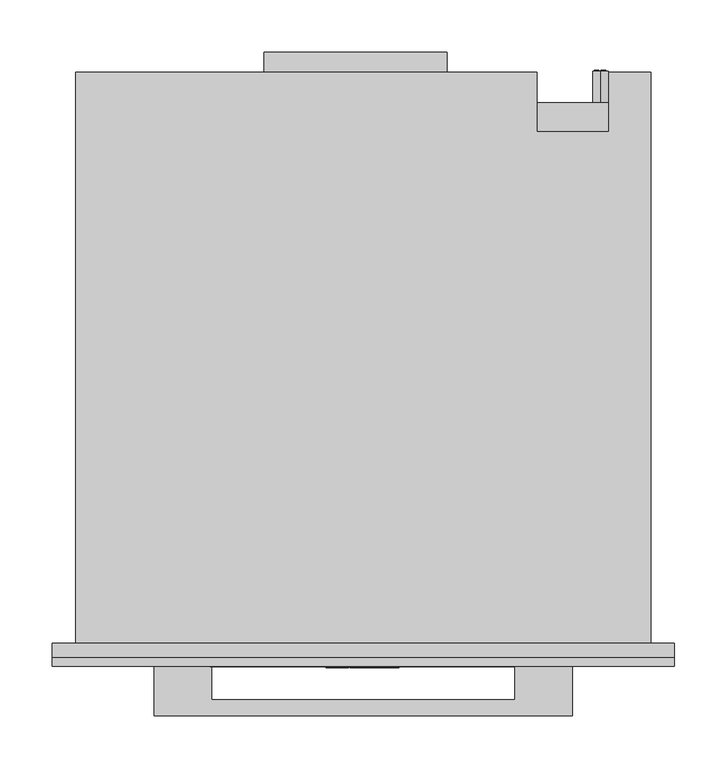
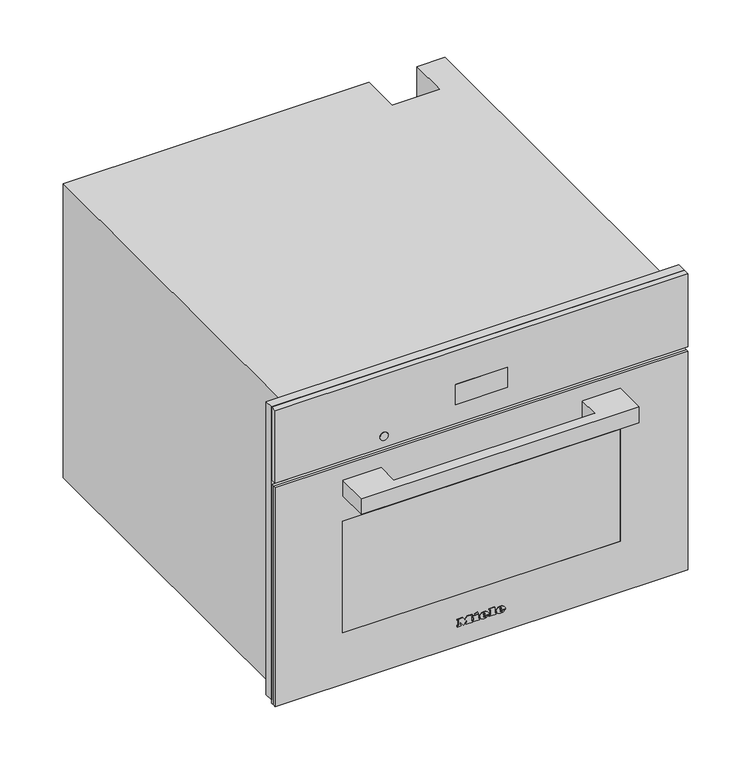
"""IFC4 building model written with IfcOpenShell, lengths in millimetres: proxy geometry, 12940270_USA_DGC7440_OBSW : 23744022_USA_12940270_DGC7440_OBSW."""

from ifc_helpers import new_model, si_unit, point, frame, frame_2d, origin, place, context, project, spatial, polyline, circle_curve, ellipse_curve, trimmed, segment, composite_curve, outline, extrude, faceted_brep, source, transform, mapped, element, save
from ifc_brep_helpers import plane_surface, cylinder_surface, revolved_surface, extruded_surface, advanced_brep


def specialty_equipment_715cd1da(model_context):
    return source(origin(), model_context, "Body", "SolidModel", [
        extrude(outline(polyline([(455.0, 297.5), (455.0, -297.5), (9.0, -297.5), (9.0, 297.5), (455.0, 297.5)]), holes=[polyline([(344.0, -272.5), (344.0, 272.5), (27.0, 272.5), (27.0, -272.5), (344.0, -272.5)])]), frame((0.0, -13.0, 0.0), z_axis=(0.0, 1.0, 0.0), x_axis=(0.0, 0.0, 1.0)), (0.0, 0.0, 1.0), 13.0),
        extrude(outline(polyline([(-95.0, 565.0), (80.0, 565.0), (80.0, 546.0), (-95.0, 546.0), (-95.0, 565.0)])), frame((0.0, 0.0, 260.0), z_axis=(0.0, 0.0, 1.0), x_axis=(1.0, 0.0, 0.0)), (0.0, 0.0, 1.0), 1.0),
        advanced_brep(
        [(227.0, 547.0, 255.5), (227.0, 547.0, 240.5), (221.4098301, 547.0, 243.0), (225.5, 547.0, 243.0), (225.5, 547.0, 253.0), (224.4955303, 547.0, 253.0), (224.4955303, 547.0, 244.0), (221.0315043, 547.0, 244.0), (221.0315043, 547.0, 243.4582978), (232.0, 547.0, 243.0), (232.0, 547.0, 253.0), (227.0, 547.0, 253.0), (227.0, 547.0, 252.0), (231.0, 547.0, 252.0), (231.0, 547.0, 248.5), (228.0, 547.0, 248.5), (228.0, 547.0, 247.5), (231.0, 547.0, 247.5), (231.0, 547.0, 244.0), (227.0, 547.0, 244.0), (227.0, 547.0, 243.0), (227.0, 517.0, 240.5), (227.0, 517.0, 255.5), (232.0, 548.0, 253.0), (232.0, 548.0, 243.0), (227.0, 548.0, 243.0), (227.0, 548.0, 244.0), (231.0, 548.0, 244.0), (231.0, 548.0, 247.5), (228.0, 548.0, 247.5), (228.0, 548.0, 248.5), (231.0, 548.0, 248.5), (231.0, 548.0, 252.0), (227.0, 548.0, 252.0), (227.0, 548.0, 253.0), (225.5, 548.0, 243.0), (221.0315043, 548.0, 243.0), (221.0315043, 548.0, 244.0), (224.4955303, 548.0, 244.0), (224.4955303, 548.0, 253.0), (225.5, 548.0, 253.0), (221.0315043, 547.0, 243.0)],
        [
            (0, 1, circle_curve(frame((227.0, 547.0, 248.0), z_axis=(0.0, 1.0, 0.0), x_axis=(0.0, 0.0, 1.0)), 7.5)),
            (1, 2, circle_curve(frame((227.0, 547.0, 248.0), z_axis=(0.0, 1.0, 0.0), x_axis=(0.0, 0.0, 1.0)), 7.5)),
            (2, 3),
            (3, 4),
            (4, 5),
            (5, 6),
            (6, 7),
            (7, 8),
            (8, 0, circle_curve(frame((227.0, 547.0, 248.0), z_axis=(0.0, 1.0, 0.0), x_axis=(0.0, 0.0, 1.0)), 7.5)),
            (9, 10),
            (10, 11),
            (11, 12),
            (12, 13),
            (13, 14),
            (14, 15),
            (15, 16),
            (16, 17),
            (17, 18),
            (18, 19),
            (19, 20),
            (20, 9),
            (21, 22, circle_curve(frame((227.0, 517.0, 248.0), z_axis=(0.0, -1.0, 0.0), x_axis=(0.0, 0.0, 1.0)), 7.5)),
            (22, 21, circle_curve(frame((227.0, 517.0, 248.0), z_axis=(0.0, -1.0, 0.0), x_axis=(0.0, 0.0, 1.0)), 7.5)),
            (0, 22),
            (21, 1),
            (8, 2, circle_curve(frame((227.0, 547.0, 248.0), z_axis=(0.0, -1.0, 0.0), x_axis=(0.0, 0.0, 1.0)), 7.5)),
            (23, 24),
            (24, 25),
            (25, 26),
            (26, 27),
            (27, 28),
            (28, 29),
            (29, 30),
            (30, 31),
            (31, 32),
            (32, 33),
            (33, 34),
            (34, 23),
            (35, 36),
            (36, 37),
            (37, 38),
            (38, 39),
            (39, 40),
            (40, 35),
            (8, 41),
            (41, 2),
            (23, 10),
            (9, 24),
            (20, 25),
            (19, 26),
            (18, 27),
            (17, 28),
            (16, 29),
            (15, 30),
            (14, 31),
            (13, 32),
            (12, 33),
            (11, 34),
            (35, 3),
            (41, 36),
            (7, 37),
            (6, 38),
            (5, 39),
            (4, 40),
        ],
        [
            plane_surface(frame((227.0, 547.0, 255.5), z_axis=(0.0, 1.0, 0.0), x_axis=(1.0, 0.0, 0.0))),
            plane_surface(frame((227.0, 517.0, 255.5), z_axis=(0.0, -1.0, 0.0), x_axis=(-1.0, 0.0, 0.0))),
            cylinder_surface(frame((227.0, 547.0, 248.0), z_axis=(0.0, -1.0, 0.0), x_axis=(0.0, 0.0, 1.0)), 7.5),
            plane_surface(frame((232.0, 548.0, 253.0), z_axis=(0.0, 1.0, 0.0), x_axis=(0.0, 0.0, -1.0))),
            plane_surface(frame((232.0, 547.0, 253.0), z_axis=(0.0, -1.0, 0.0), x_axis=(0.0, 0.0, 1.0))),
            plane_surface(frame((232.0, 548.0, 253.0), z_axis=(1.0, 0.0, 0.0), x_axis=(0.0, -1.0, 0.0))),
            plane_surface(frame((232.0, 548.0, 243.0), z_axis=(0.0, 0.0, -1.0), x_axis=(0.0, -1.0, 0.0))),
            plane_surface(frame((227.0, 548.0, 243.0), z_axis=(-1.0, 0.0, 0.0), x_axis=(0.0, -1.0, 0.0))),
            plane_surface(frame((227.0, 548.0, 244.0), z_axis=(0.0, 0.0, 1.0), x_axis=(0.0, -1.0, 0.0))),
            plane_surface(frame((231.0, 548.0, 244.0), z_axis=(-1.0, 0.0, 0.0), x_axis=(0.0, -1.0, 0.0))),
            plane_surface(frame((231.0, 548.0, 247.5), z_axis=(0.0, 0.0, -1.0), x_axis=(0.0, -1.0, 0.0))),
            plane_surface(frame((228.0, 548.0, 247.5), z_axis=(-1.0, 0.0, 0.0), x_axis=(0.0, -1.0, 0.0))),
            plane_surface(frame((228.0, 548.0, 248.5), z_axis=(0.0, 0.0, 1.0), x_axis=(0.0, -1.0, 0.0))),
            plane_surface(frame((231.0, 548.0, 248.5), z_axis=(-1.0, 0.0, 0.0), x_axis=(0.0, -1.0, 0.0))),
            plane_surface(frame((231.0, 548.0, 252.0), z_axis=(0.0, 0.0, -1.0), x_axis=(0.0, -1.0, 0.0))),
            plane_surface(frame((227.0, 548.0, 252.0), z_axis=(-1.0, 0.0, 0.0), x_axis=(0.0, -1.0, 0.0))),
            plane_surface(frame((227.0, 548.0, 253.0), z_axis=(0.0, 0.0, 1.0), x_axis=(0.0, -1.0, 0.0))),
            plane_surface(frame((225.5, 548.0, 243.0), z_axis=(0.0, 0.0, -1.0), x_axis=(0.0, -1.0, 0.0))),
            plane_surface(frame((221.0315043, 548.0, 243.0), z_axis=(-1.0, 0.0, 0.0), x_axis=(0.0, -1.0, 0.0))),
            plane_surface(frame((221.0315043, 548.0, 244.0), z_axis=(0.0, 0.0, 1.0), x_axis=(0.0, -1.0, 0.0))),
            plane_surface(frame((224.4955303, 548.0, 244.0), z_axis=(-1.0, 0.0, 0.0), x_axis=(0.0, -1.0, 0.0))),
            plane_surface(frame((224.4955303, 548.0, 253.0), z_axis=(0.0, 0.0, 1.0), x_axis=(0.0, -1.0, 0.0))),
            plane_surface(frame((225.5, 548.0, 253.0), z_axis=(1.0, 0.0, 0.0), x_axis=(0.0, -1.0, 0.0))),
        ],
        [
            (0, [[1, 2, 3, 4, 5, 6, 7, 8, 9], [10, 11, 12, 13, 14, 15, 16, 17, 18, 19, 20, 21]]),
            (1, [[22, 23]]),
            (2, [[-1, 24, -22, 25]]),
            (2, [[-23, -24, -9, 26, -2, -25]]),
            (3, [[27, 28, 29, 30, 31, 32, 33, 34, 35, 36, 37, 38]]),
            (3, [[39, 40, 41, 42, 43, 44]]),
            (4, [[45, 46, -26]]),
            (5, [[-27, 47, -10, 48]]),
            (6, [[-28, -48, -21, 49]]),
            (7, [[-29, -49, -20, 50]]),
            (8, [[-30, -50, -19, 51]]),
            (9, [[-31, -51, -18, 52]]),
            (10, [[-32, -52, -17, 53]]),
            (11, [[-33, -53, -16, 54]]),
            (12, [[-34, -54, -15, 55]]),
            (13, [[-35, -55, -14, 56]]),
            (14, [[-36, -56, -13, 57]]),
            (15, [[-37, -57, -12, 58]]),
            (16, [[-38, -58, -11, -47]]),
            (17, [[-39, 59, -3, -46, 60]]),
            (18, [[-40, -60, -45, -8, 61]]),
            (19, [[-41, -61, -7, 62]]),
            (20, [[-42, -62, -6, 63]]),
            (21, [[-43, -63, -5, 64]]),
            (22, [[-44, -64, -4, -59]]),
        ],
    ),
        faceted_brep([(-275.0, 546.0, 0.0), (-275.0, 546.0, 448.0), (166.0, 546.0, 448.0), (166.0, 546.0, 0.0), (235.0, 546.0, 448.0), (275.0, 546.0, 448.0), (275.0, 546.0, 338.0), (235.0, 546.0, 338.0), (275.0, 0.0, 448.0), (-275.0, 0.0, 448.0), (-275.0, 0.0, 0.0), (275.0, 0.0, 0.0), (-272.5, 0.0, 344.0), (272.5, 0.0, 344.0), (272.5, 0.0, 27.0), (-272.5, 0.0, 27.0), (235.0, 489.0, 448.0), (166.0, 489.0, 448.0), (166.0, 517.0, 0.0), (275.0, 517.0, 0.0), (275.0, 517.0, 338.0), (272.5, 17.0, 344.0), (-272.5, 17.0, 344.0), (-272.5, 17.0, 27.0), (272.5, 17.0, 27.0), (231.0, 17.0, 307.0), (231.0, 17.0, 65.0), (-231.0, 17.0, 65.0), (-231.0, 17.0, 307.0), (231.0, 411.0, 307.0), (-231.0, 411.0, 307.0), (-231.0, 411.0, 65.0), (231.0, 411.0, 65.0), (235.0, 489.0, 337.0), (166.0, 489.0, 337.0), (166.0, 517.0, 337.0), (235.0, 517.0, 337.0), (235.0, 517.0, 338.0)], [[[0, 1, 2, 3]], [[4, 5, 6, 7]], [[8, 9, 10, 11], [12, 13, 14, 15]], [[9, 8, 5, 4, 16, 17, 2, 1]], [[1, 0, 10, 9]], [[11, 10, 0, 3, 18, 19]], [[8, 11, 19, 20, 6, 5]], [[21, 22, 23, 24], [25, 26, 27, 28]], [[22, 21, 13, 12]], [[23, 22, 12, 15]], [[24, 23, 15, 14]], [[21, 24, 14, 13]], [[29, 30, 31, 32]], [[29, 32, 26, 25]], [[32, 31, 27, 26]], [[31, 30, 28, 27]], [[30, 29, 25, 28]], [[16, 33, 34, 17]], [[17, 34, 35, 18, 3, 2]], [[34, 33, 36, 35]], [[33, 16, 4, 7, 37, 36]], [[37, 20, 19, 18, 35, 36]], [[20, 37, 7, 6]]]),
        advanced_brep(
        [(26.2998, -23.0, 36.7018), (26.2998, -23.0, 37.8532), (33.9264, -23.0, 37.8532), (20.6568, -23.0, 37.8532), (23.7918, -23.0, 34.0), (33.7326, -23.0, 36.7018), (30.2898, -23.0, 36.7018), (27.5766, -23.0, 35.425), (26.2998, -23.0, 39.3124), (26.2998, -23.0, 40.555), (28.2492, -23.0, 40.555), (28.2492, -23.0, 39.3124), (26.2998, -22.0, 36.7018), (27.5766, -22.0, 35.425), (30.2898, -22.0, 36.7018), (33.7326, -22.0, 36.7018), (23.7918, -22.0, 34.0), (20.6568, -22.0, 37.8532), (33.9264, -22.0, 37.8532), (26.2998, -22.0, 37.8532), (26.2998, -22.0, 39.3124), (28.2492, -22.0, 39.3124), (28.2492, -22.0, 40.555), (26.2998, -22.0, 40.555)],
        [
            (0, 1),
            (1, 2),
            (2, 3, ellipse_curve(frame((27.2916, -23.0, 37.8532), z_axis=(0.0, -1.0, 0.0), x_axis=(-1.0, 0.0, 0.0)), 6.6348, 5.4834)),
            (3, 4, circle_curve(frame((25.0686622, -23.0, 38.2408), z_axis=(0.0, -1.0, 0.0), x_axis=(0.0, 0.0, -1.0)), 4.4288556)),
            (4, 5, circle_curve(frame((27.1587808, -23.0, 41.2504), z_axis=(0.0, -1.0, 0.0), x_axis=(0.0, 0.0, -1.0)), 7.9940516)),
            (5, 6),
            (6, 7, circle_curve(frame((28.1338588, -23.0, 37.762), z_axis=(0.0, 1.0, 0.0), x_axis=(0.0, 0.0, -1.0)), 2.4025208)),
            (7, 0, circle_curve(frame((27.5766, -23.0, 36.7018), z_axis=(0.0, 1.0, 0.0), x_axis=(0.0, 0.0, -1.0)), 1.2768)),
            (8, 9),
            (9, 10, circle_curve(frame((27.2745, -23.0, 40.555), z_axis=(0.0, 1.0, 0.0), x_axis=(0.0, 0.0, -1.0)), 0.9747)),
            (10, 11),
            (11, 8),
            (12, 13, circle_curve(frame((27.5766, -22.0, 36.7018), z_axis=(0.0, -1.0, 0.0), x_axis=(0.0, 0.0, -1.0)), 1.2768)),
            (13, 14, circle_curve(frame((28.1338588, -22.0, 37.762), z_axis=(0.0, -1.0, 0.0), x_axis=(0.0, 0.0, -1.0)), 2.4025208)),
            (14, 15),
            (15, 16, circle_curve(frame((27.1587808, -22.0, 41.2504), z_axis=(0.0, 1.0, 0.0), x_axis=(0.0, 0.0, -1.0)), 7.9940516)),
            (16, 17, circle_curve(frame((25.0686622, -22.0, 38.2408), z_axis=(0.0, 1.0, 0.0), x_axis=(0.0, 0.0, -1.0)), 4.4288556)),
            (17, 18, ellipse_curve(frame((27.2916, -22.0, 37.8532), z_axis=(0.0, 1.0, 0.0), x_axis=(-1.0, 0.0, 0.0)), 6.6348, 5.4834)),
            (18, 19),
            (19, 12),
            (20, 21),
            (21, 22),
            (22, 23, circle_curve(frame((27.2745, -22.0, 40.555), z_axis=(0.0, -1.0, 0.0), x_axis=(0.0, 0.0, -1.0)), 0.9747)),
            (23, 20),
            (0, 12),
            (19, 1),
            (18, 2),
            (5, 15),
            (14, 6),
            (17, 3),
            (13, 7),
            (16, 4),
            (8, 20),
            (23, 9),
            (22, 10),
            (21, 11),
        ],
        [
            plane_surface(frame((26.2998, -23.0, 37.8532), z_axis=(0.0, -1.0, 0.0), x_axis=(0.0, 0.0, 1.0))),
            plane_surface(frame((26.2998, -22.0, 37.8532), z_axis=(0.0, 1.0, 0.0), x_axis=(0.0, 0.0, -1.0))),
            plane_surface(frame((26.2998, -23.0, 36.7018), z_axis=(1.0, 0.0, 0.0), x_axis=(0.0, 1.0, 0.0))),
            plane_surface(frame((26.2998, -23.0, 37.8532), z_axis=(0.0, 0.0, -1.0), x_axis=(0.0, 1.0, 0.0))),
            plane_surface(frame((33.7326, -23.0, 36.7018), z_axis=(0.0, 0.0, 1.0), x_axis=(0.0, 1.0, 0.0))),
            extruded_surface(trimmed(ellipse_curve(frame((27.2916, -21.0, 37.8532), z_axis=(0.0, -1.0, 0.0), x_axis=(-1.0, 0.0, 0.0)), 6.6348, 5.4834), [point((33.9264, -21.0, 37.8532))], [point((20.6568, -21.0, 37.8532))], True, "CARTESIAN"), (0.0, -1.0, 0.0), 1.0),
            revolved_surface(polyline([(28.1338588, -22.0, 35.3594792), (28.1338588, -23.0, 35.3594792)]), (28.1338588, -22.0, 37.762), (0.0, 1.0, 0.0)),
            revolved_surface(polyline([(27.5766, -22.0, 35.425), (27.5766, -23.0, 35.425)]), (27.5766, -22.0, 36.7018), (0.0, 1.0, 0.0)),
            cylinder_surface(frame((25.0686622, -22.0, 38.2408), z_axis=(0.0, -1.0, 0.0), x_axis=(0.0, 0.0, -1.0)), 4.4288556),
            cylinder_surface(frame((27.1587808, -22.0, 41.2504), z_axis=(0.0, -1.0, 0.0), x_axis=(0.0, 0.0, -1.0)), 7.9940516),
            plane_surface(frame((26.2998, -23.0, 39.3124), z_axis=(1.0, 0.0, 0.0), x_axis=(0.0, 1.0, 0.0))),
            revolved_surface(polyline([(27.2745, -22.0, 39.5803), (27.2745, -23.0, 39.5803)]), (27.2745, -22.0, 40.555), (0.0, 1.0, 0.0)),
            plane_surface(frame((28.2492, -23.0, 40.555), z_axis=(-1.0, 0.0, 0.0), x_axis=(0.0, 1.0, 0.0))),
            plane_surface(frame((28.2492, -23.0, 39.3124), z_axis=(0.0, 0.0, 1.0), x_axis=(0.0, 1.0, 0.0))),
        ],
        [
            (0, [[1, 2, 3, 4, 5, 6, 7, 8], [9, 10, 11, 12]]),
            (1, [[13, 14, 15, 16, 17, 18, 19, 20], [21, 22, 23, 24]]),
            (2, [[-1, 25, -20, 26]]),
            (3, [[-2, -26, -19, 27]]),
            (4, [[-6, 28, -15, 29]]),
            (5, [[-3, -27, -18, 30]]),
            (6, [[-7, -29, -14, 31]]),
            (7, [[-8, -31, -13, -25]]),
            (8, [[-4, -30, -17, 32]]),
            (9, [[-5, -32, -16, -28]]),
            (10, [[-9, 33, -24, 34]]),
            (11, [[-10, -34, -23, 35]]),
            (12, [[-11, -35, -22, 36]]),
            (13, [[-12, -36, -21, -33]]),
        ],
    ),
        advanced_brep(
        [(2.508, -23.0, 36.7018), (2.508, -23.0, 37.8532), (10.1346, -23.0, 37.8532), (-3.135, -23.0, 37.8532), (0.0, -23.0, 34.0), (9.9408, -23.0, 36.7018), (6.498, -23.0, 36.7018), (3.7848, -23.0, 35.425), (2.508, -23.0, 39.3124), (2.508, -23.0, 40.555), (4.4574, -23.0, 40.555), (4.4574, -23.0, 39.3124), (2.508, -22.0, 36.7018), (3.7848, -22.0, 35.425), (6.498, -22.0, 36.7018), (9.9408, -22.0, 36.7018), (0.0, -22.0, 34.0), (-3.135, -22.0, 37.8532), (10.1346, -22.0, 37.8532), (2.508, -22.0, 37.8532), (2.508, -22.0, 39.3124), (4.4574, -22.0, 39.3124), (4.4574, -22.0, 40.555), (2.508, -22.0, 40.555)],
        [
            (0, 1),
            (1, 2),
            (2, 3, ellipse_curve(frame((3.4998, -23.0, 37.8532), z_axis=(0.0, -1.0, 0.0), x_axis=(-1.0, 0.0, 0.0)), 6.6348, 5.4834)),
            (3, 4, circle_curve(frame((1.2768622, -23.0, 38.2408), z_axis=(0.0, -1.0, 0.0), x_axis=(0.0, 0.0, -1.0)), 4.4288556)),
            (4, 5, circle_curve(frame((3.3669808, -23.0, 41.2504), z_axis=(0.0, -1.0, 0.0), x_axis=(0.0, 0.0, -1.0)), 7.9940516)),
            (5, 6),
            (6, 7, circle_curve(frame((4.3420588, -23.0, 37.762), z_axis=(0.0, 1.0, 0.0), x_axis=(0.0, 0.0, -1.0)), 2.4025208)),
            (7, 0, circle_curve(frame((3.7848, -23.0, 36.7018), z_axis=(0.0, 1.0, 0.0), x_axis=(0.0, 0.0, -1.0)), 1.2768)),
            (8, 9),
            (9, 10, circle_curve(frame((3.4827, -23.0, 40.555), z_axis=(0.0, 1.0, 0.0), x_axis=(0.0, 0.0, -1.0)), 0.9747)),
            (10, 11),
            (11, 8),
            (12, 13, circle_curve(frame((3.7848, -22.0, 36.7018), z_axis=(0.0, -1.0, 0.0), x_axis=(0.0, 0.0, -1.0)), 1.2768)),
            (13, 14, circle_curve(frame((4.3420588, -22.0, 37.762), z_axis=(0.0, -1.0, 0.0), x_axis=(0.0, 0.0, -1.0)), 2.4025208)),
            (14, 15),
            (15, 16, circle_curve(frame((3.3669808, -22.0, 41.2504), z_axis=(0.0, 1.0, 0.0), x_axis=(0.0, 0.0, -1.0)), 7.9940516)),
            (16, 17, circle_curve(frame((1.2768622, -22.0, 38.2408), z_axis=(0.0, 1.0, 0.0), x_axis=(0.0, 0.0, -1.0)), 4.4288556)),
            (17, 18, ellipse_curve(frame((3.4998, -22.0, 37.8532), z_axis=(0.0, 1.0, 0.0), x_axis=(-1.0, 0.0, 0.0)), 6.6348, 5.4834)),
            (18, 19),
            (19, 12),
            (20, 21),
            (21, 22),
            (22, 23, circle_curve(frame((3.4827, -22.0, 40.555), z_axis=(0.0, -1.0, 0.0), x_axis=(0.0, 0.0, -1.0)), 0.9747)),
            (23, 20),
            (0, 12),
            (19, 1),
            (18, 2),
            (5, 15),
            (14, 6),
            (17, 3),
            (13, 7),
            (16, 4),
            (8, 20),
            (23, 9),
            (22, 10),
            (21, 11),
        ],
        [
            plane_surface(frame((2.508, -23.0, 37.8532), z_axis=(0.0, -1.0, 0.0), x_axis=(0.0, 0.0, 1.0))),
            plane_surface(frame((2.508, -22.0, 37.8532), z_axis=(0.0, 1.0, 0.0), x_axis=(0.0, 0.0, -1.0))),
            plane_surface(frame((2.508, -23.0, 36.7018), z_axis=(1.0, 0.0, 0.0), x_axis=(0.0, 1.0, 0.0))),
            plane_surface(frame((2.508, -23.0, 37.8532), z_axis=(0.0, 0.0, -1.0), x_axis=(0.0, 1.0, 0.0))),
            plane_surface(frame((9.9408, -23.0, 36.7018), z_axis=(0.0, 0.0, 1.0), x_axis=(0.0, 1.0, 0.0))),
            extruded_surface(trimmed(ellipse_curve(frame((3.4998, -21.0, 37.8532), z_axis=(0.0, -1.0, 0.0), x_axis=(-1.0, 0.0, 0.0)), 6.6348, 5.4834), [point((10.1346, -21.0, 37.8532))], [point((-3.135, -21.0, 37.8532))], True, "CARTESIAN"), (0.0, -1.0, 0.0), 1.0),
            revolved_surface(polyline([(4.3420588, -22.0, 35.3594792), (4.3420588, -23.0, 35.3594792)]), (4.3420588, -22.0, 37.762), (0.0, 1.0, 0.0)),
            revolved_surface(polyline([(3.7848, -22.0, 35.425), (3.7848, -23.0, 35.425)]), (3.7848, -22.0, 36.7018), (0.0, 1.0, 0.0)),
            cylinder_surface(frame((1.2768622, -22.0, 38.2408), z_axis=(0.0, -1.0, 0.0), x_axis=(0.0, 0.0, -1.0)), 4.4288556),
            cylinder_surface(frame((3.3669808, -22.0, 41.2504), z_axis=(0.0, -1.0, 0.0), x_axis=(0.0, 0.0, -1.0)), 7.9940516),
            plane_surface(frame((2.508, -23.0, 39.3124), z_axis=(1.0, 0.0, 0.0), x_axis=(0.0, 1.0, 0.0))),
            revolved_surface(polyline([(3.4827, -22.0, 39.5803), (3.4827, -23.0, 39.5803)]), (3.4827, -22.0, 40.555), (0.0, 1.0, 0.0)),
            plane_surface(frame((4.4574, -23.0, 40.555), z_axis=(-1.0, 0.0, 0.0), x_axis=(0.0, 1.0, 0.0))),
            plane_surface(frame((4.4574, -23.0, 39.3124), z_axis=(0.0, 0.0, 1.0), x_axis=(0.0, 1.0, 0.0))),
        ],
        [
            (0, [[1, 2, 3, 4, 5, 6, 7, 8], [9, 10, 11, 12]]),
            (1, [[13, 14, 15, 16, 17, 18, 19, 20], [21, 22, 23, 24]]),
            (2, [[-1, 25, -20, 26]]),
            (3, [[-2, -26, -19, 27]]),
            (4, [[-6, 28, -15, 29]]),
            (5, [[-3, -27, -18, 30]]),
            (6, [[-7, -29, -14, 31]]),
            (7, [[-8, -31, -13, -25]]),
            (8, [[-4, -30, -17, 32]]),
            (9, [[-5, -32, -16, -28]]),
            (10, [[-9, 33, -24, 34]]),
            (11, [[-10, -34, -23, 35]]),
            (12, [[-11, -35, -22, 36]]),
            (13, [[-12, -36, -21, -33]]),
        ],
    ),
        extrude(outline(polyline([(44.7274, -9.9522), (42.8806, -9.0858), (44.6818, -5.2212), (46.5286, -6.0762), (44.7274, -9.9522)])), frame((0.0, -23.0, 0.0), z_axis=(0.0, 1.0, 0.0), x_axis=(0.0, 0.0, 1.0)), (0.0, 0.0, 1.0), 1.0),
        extrude(outline(polyline([(42.6298, -12.768), (40.5892, -12.768), (40.5892, -11.4114), (35.9152, -11.4114), (35.9152, -12.768), (34.0, -12.768), (34.0, -3.7734), (35.9152, -3.7734), (35.9152, -5.0958), (42.6298, -5.0958), (42.6298, -12.768)])), frame((0.0, -23.0, 0.0), z_axis=(0.0, 1.0, 0.0), x_axis=(0.0, 0.0, 1.0)), (0.0, 0.0, 1.0), 1.0),
        extrude(outline(polyline([(43.5418, 10.773), (43.5418, 12.141), (35.9152, 12.141), (35.9152, 10.773), (34.0, 10.773), (34.0, 20.0184), (35.9152, 20.0184), (35.9152, 18.6162), (45.4, 18.6162), (45.4, 10.773), (43.5418, 10.773)])), frame((0.0, -23.0, 0.0), z_axis=(0.0, 1.0, 0.0), x_axis=(0.0, 0.0, 1.0)), (0.0, 0.0, 1.0), 1.0),
        extrude(outline(polyline([(43.5418, -35.4882), (43.5418, -34.1088), (35.9152, -34.1088), (35.9152, -35.4882), (34.0, -35.4882), (34.0, -30.4722), (35.9152, -30.4722), (35.9152, -31.8402), (40.7429247, -31.8402), (34.0, -26.7444), (40.9402223, -21.6258), (35.9152, -21.6258), (35.9152, -23.028), (34.0, -23.028), (34.0, -13.9308), (35.9152, -13.9308), (35.9152, -15.3786), (43.5418, -15.3786), (43.5418, -13.9308), (45.4, -13.9308), (45.4, -20.8734), (41.125, -24.2022), (45.4, -27.5424), (45.4, -35.4882), (43.5418, -35.4882)])), frame((0.0, -23.0, 0.0), z_axis=(0.0, 1.0, 0.0), x_axis=(0.0, 0.0, 1.0)), (0.0, 0.0, 1.0), 1.0),
        extrude(outline(composite_curve([segment(trimmed(circle_curve(frame_2d((361.0, -140.5745637)), 6.0), [point((361.0, -146.5745637))], [point((361.0, -134.5745637))], False, "CARTESIAN"), True, "CONTINUOUS"), segment(trimmed(circle_curve(frame_2d((361.0, -140.5745637)), 6.0), [point((361.0, -134.5745637))], [point((361.0, -146.5745637))], False, "CARTESIAN"), True, "CONTINUOUS")], self_intersect=False)), frame((0.0, -22.5, 0.0), z_axis=(0.0, 1.0, 0.0), x_axis=(0.0, 0.0, 1.0)), (0.0, 0.0, 1.0), 1.0),
        extrude(outline(polyline([(-37.5, -21.0), (37.5, -21.0), (37.5, -22.0), (-37.5, -22.0), (-37.5, -21.0)])), frame((0.0, 0.0, 373.0), z_axis=(0.0, 0.0, 1.0), x_axis=(1.0, 0.0, 0.0)), (0.0, 0.0, 1.0), 30.5),
        faceted_brep([(297.5, -22.0, 455.0), (-297.5, -22.0, 455.0), (-297.5, -22.0, 344.0), (297.5, -22.0, 344.0), (37.5, -22.0, 403.5), (37.5, -22.0, 373.0), (-37.5, -22.0, 373.0), (-37.5, -22.0, 403.5), (297.5, -13.0, 455.0), (297.5, -13.0, 344.0), (-297.5, -13.0, 344.0), (-297.5, -13.0, 455.0), (37.5, -21.0, 403.5), (-37.5, -21.0, 403.5), (-37.5, -21.0, 373.0), (37.5, -21.0, 373.0)], [[[0, 1, 2, 3], [4, 5, 6, 7]], [[8, 9, 10, 11]], [[1, 0, 8, 11]], [[2, 1, 11, 10]], [[3, 2, 10, 9]], [[0, 3, 9, 8]], [[12, 13, 14, 15]], [[12, 15, 5, 4]], [[15, 14, 6, 5]], [[14, 13, 7, 6]], [[13, 12, 4, 7]]]),
        extrude(outline(polyline([(200.0, -22.0), (-200.0, -22.0), (-200.0, -18.0), (200.0, -18.0), (200.0, -22.0)])), frame((0.0, 0.0, 82.0), z_axis=(0.0, 0.0, 1.0), x_axis=(1.0, 0.0, 0.0)), (0.0, 0.0, 1.0), 170.0),
        extrude(outline(polyline([(337.0, 297.5), (337.0, -297.5), (4.0, -297.5), (4.0, 297.5), (337.0, 297.5)]), holes=[polyline([(252.0, -200.0), (252.0, 200.0), (82.0, 200.0), (82.0, -200.0), (252.0, -200.0)])]), frame((0.0, -22.0, 0.0), z_axis=(0.0, 1.0, 0.0), x_axis=(0.0, 0.0, 1.0)), (0.0, 0.0, 1.0), 4.0),
        extrude(outline(polyline([(-200.0, -69.0), (-200.0, -22.0), (-145.0, -22.0), (-145.0, -54.0), (145.0, -54.0), (145.0, -22.0), (200.0, -22.0), (200.0, -69.0), (-200.0, -69.0)])), frame((0.0, 0.0, 291.0), z_axis=(0.0, 0.0, 1.0), x_axis=(1.0, 0.0, 0.0)), (0.0, 0.0, 1.0), 24.0),
        extrude(outline(polyline([(297.5, -18.0), (-297.5, -18.0), (-297.5, -13.0), (297.5, -13.0), (297.5, -18.0)])), frame((0.0, 0.0, 4.0), z_axis=(0.0, 0.0, 1.0), x_axis=(1.0, 0.0, 0.0)), (0.0, 0.0, 1.0), 333.0),
    ])


if __name__ == "__main__":
    model = new_model("IFC4")
    model_context = context("Model", 3, world=origin())
    ifc_project = project(units=[si_unit("LENGTHUNIT", "METRE", prefix="MILLI")], contexts=[model_context])
    site = spatial("IfcSite", under=ifc_project)
    building = spatial("IfcBuilding", under=site)
    placement = place(None, origin())
    specialty_equipment_shape = specialty_equipment_715cd1da(model_context)
    element("IfcBuildingElementProxy", 1, Name="12940270_USA_DGC7440_OBSW : 23744022_USA_12940270_DGC7440_OBSW", ObjectType="12940270_USA_DGC7440_OBSW : 23744022_USA_12940270_DGC7440_OBSW", at=placement, inside=building, context=model_context, shape_type="MappedRepresentation", body=[
        mapped(specialty_equipment_shape, transform((0.0, 0.0, 0.0), x_axis=(1.0, 0.0, 0.0), y_axis=(0.0, 1.0, 0.0), z_axis=(0.0, 0.0, 1.0))),
    ])
    save(model, "model.ifc")
